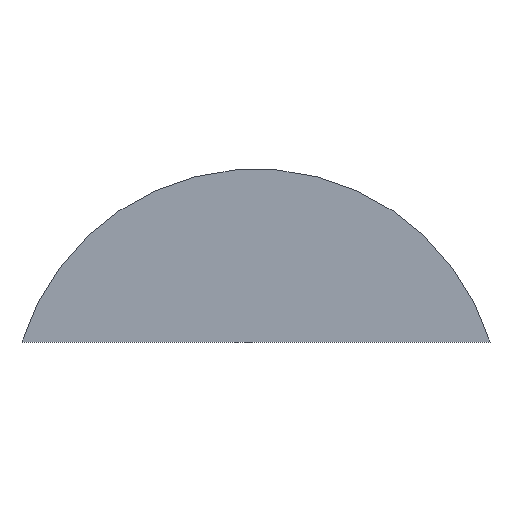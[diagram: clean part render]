
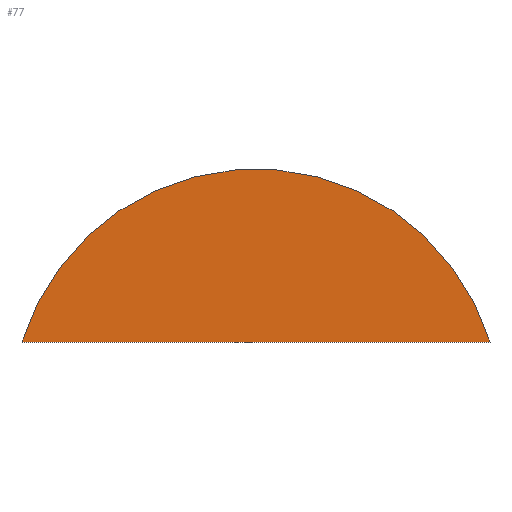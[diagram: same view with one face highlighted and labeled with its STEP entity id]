
A CAD part, top view. The second image highlights one B-rep face of the part: STEP entity #77.
In plain terms, the highlighted planar face has unit normal (0, 0, 1).
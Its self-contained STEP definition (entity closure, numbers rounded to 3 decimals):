
#39 = EDGE_CURVE('',#40,#42,#44,.T.);
#40 = VERTEX_POINT('',#41);
#41 = CARTESIAN_POINT('',(2.773,0.85,12.8));
#42 = VERTEX_POINT('',#43);
#43 = CARTESIAN_POINT('',(-2.773,0.85,12.8));
#44 = CIRCLE('',#45,2.9);
#45 = AXIS2_PLACEMENT_3D('',#46,#47,#48);
#46 = CARTESIAN_POINT('',(0.,0.,12.8));
#47 = DIRECTION('',(0.,0.,1.));
#48 = DIRECTION('',(1.,0.,-0.));
#77 = ADVANCED_FACE('',(#78),#87,.T.);
#78 = FACE_BOUND('',#79,.T.);
#79 = EDGE_LOOP('',(#80,#86));
#80 = ORIENTED_EDGE('',*,*,#81,.F.);
#81 = EDGE_CURVE('',#40,#42,#82,.T.);
#82 = LINE('',#83,#84);
#83 = CARTESIAN_POINT('',(-1.5,0.85,12.8));
#84 = VECTOR('',#85,1.);
#85 = DIRECTION('',(-1.,-0.,0.));
#86 = ORIENTED_EDGE('',*,*,#39,.T.);
#87 = PLANE('',#88);
#88 = AXIS2_PLACEMENT_3D('',#89,#90,#91);
#89 = CARTESIAN_POINT('',(0.,0.,12.8));
#90 = DIRECTION('',(0.,0.,1.));
#91 = DIRECTION('',(1.,0.,-0.));
